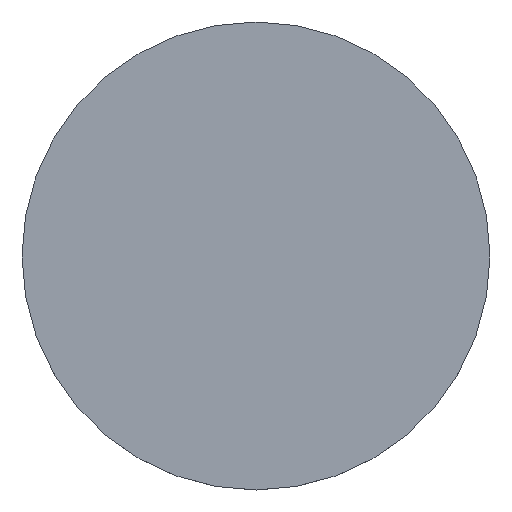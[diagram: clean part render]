
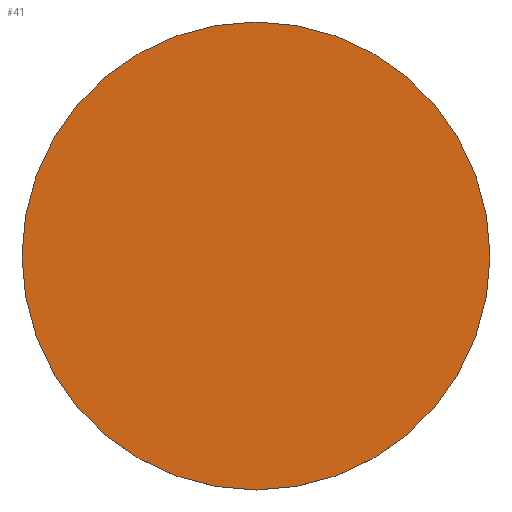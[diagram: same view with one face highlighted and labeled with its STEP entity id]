
A CAD part, top view. The second image highlights one B-rep face of the part: STEP entity #41.
In plain terms, the highlighted planar face has unit normal (0, 0, 1).
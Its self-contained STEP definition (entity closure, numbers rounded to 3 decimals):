
#16=PLANE('',#60);
#19=FACE_OUTER_BOUND('',#22,.T.);
#22=EDGE_LOOP('',(#37));
#25=CIRCLE('',#57,2.5);
#27=VERTEX_POINT('',#76);
#29=EDGE_CURVE('',#27,#27,#25,.T.);
#37=ORIENTED_EDGE('',*,*,#29,.T.);
#41=ADVANCED_FACE('',(#19),#16,.T.);
#57=AXIS2_PLACEMENT_3D('',#77,#65,#66);
#60=AXIS2_PLACEMENT_3D('',#82,#72,#73);
#65=DIRECTION('center_axis',(0.,0.,1.));
#66=DIRECTION('ref_axis',(1.,0.,0.));
#72=DIRECTION('center_axis',(0.,0.,1.));
#73=DIRECTION('ref_axis',(1.,0.,0.));
#76=CARTESIAN_POINT('',(-2.5,-47.,-2.4));
#77=CARTESIAN_POINT('Origin',(0.,-47.,-2.4));
#82=CARTESIAN_POINT('Origin',(0.,-47.,-2.4));
